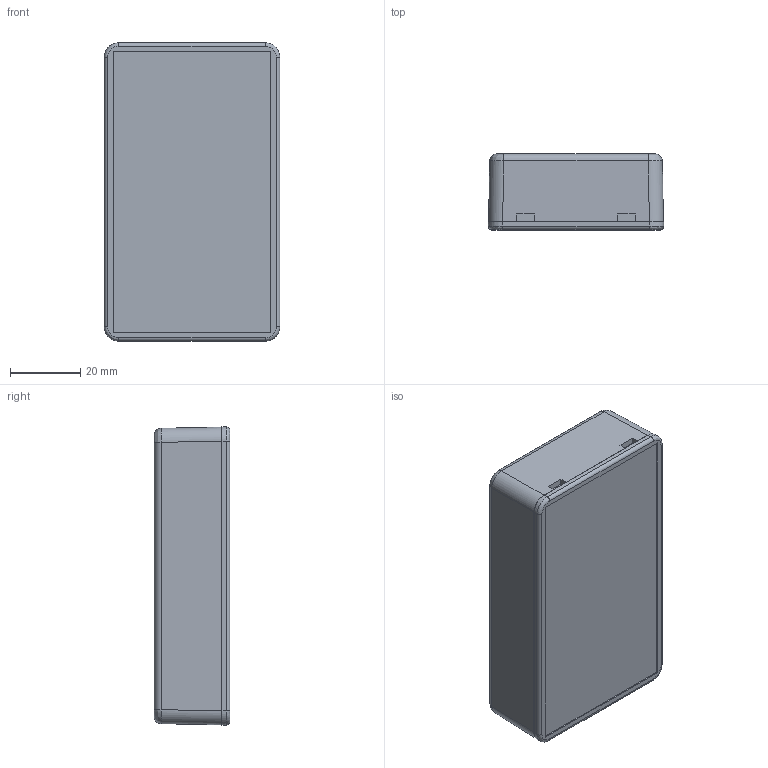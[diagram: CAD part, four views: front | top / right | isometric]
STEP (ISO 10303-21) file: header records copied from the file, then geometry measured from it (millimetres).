
FILE_DESCRIPTION((''),'2;1');
FILE_NAME('ASM-SJH-X-V01_ASM','2012-05-05T',('Administrator'),(''),'PRO/ENGINEER BY PARAMETRIC TECHNOLOGY CORPORATION, 2010280','PRO/ENGINEER BY PARAMETRIC TECHNOLOGY CORPORATION, 2010280','');
FILE_SCHEMA(('AUTOMOTIVE_DESIGN_CC2 { 1 2 10303 214 -1 1 5 2 }'));
Length unit declared in the file: millimetre
Products named in the file (3): PRT-SJH-S-V01; PRT-SJH-X-V01; ASM-SJH-X-V01_ASM
Assembly tree (2 placements, depth 2):
  ASM-SJH-X-V01_ASM
    PRT-SJH-S-V01
    PRT-SJH-X-V01
Bounding box: 50 x 21.55 x 85 mm (x, y, z)
Volume: 23719.9 mm3; surface area: 28294.9 mm2
Topology: 2 solids, 2 shells, 175 faces, 428 edges, 280 vertices
Faces by surface type: plane 127, cylinder 28, extrusion 12, bspline 8
Entity records: 7086 total; most frequent: CARTESIAN_POINT 1657, ORIENTED_EDGE 856, DIRECTION 768, PRESENTATION_STYLE_ASSIGNMENT 430, STYLED_ITEM 430, CURVE_STYLE 428, EDGE_CURVE 428, VECTOR 352
